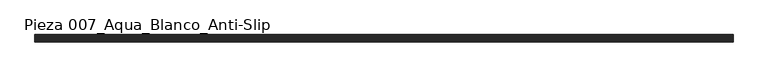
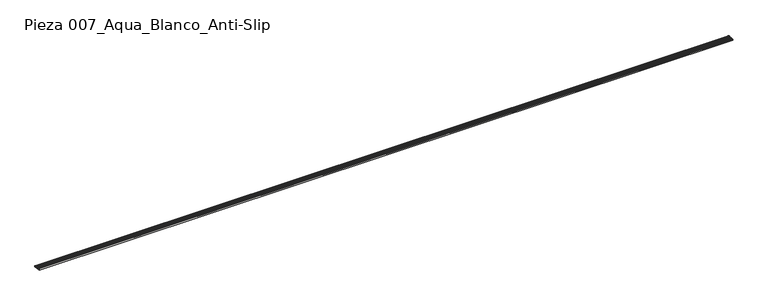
"""IFC4 building model written with IfcOpenShell, lengths in millimetres: slab geometry, ROSA GRES_007 : Pieza 007_Aqua_Blanco_Anti-Slip."""

from ifc_helpers import new_model, si_unit, point, frame, frame_2d, origin, place, context, project, spatial, polyline, circle_curve, trimmed, segment, composite_curve, outline, extrude, source, transform, mapped, element, save


def pieza_007_aqua_blanco_anti_slip_7cebcb04(model_context):
    return source(origin(), model_context, "Body", "SweptSolid", [
        extrude(outline(composite_curve([segment(trimmed(circle_curve(frame_2d((-25.9545763, 173.0767428)), 11.6464304), [point((-14.3742659, 174.3159971))], [point((-37.1820416, 176.172444))], True, "CARTESIAN"), True, "CONTINUOUS"), segment(polyline([(-37.1820416, 176.172444), (-33.8762309, 200.4746837), (-29.9345538, 200.1538709)]), True, "CONTINUOUS"), segment(trimmed(circle_curve(frame_2d((-27.3971937, 201.142641)), 2.7232081), [point((-29.9345538, 200.1538709))], [point((-24.7247274, 200.6193952))], True, "CARTESIAN"), True, "CONTINUOUS"), segment(trimmed(circle_curve(frame_2d((-20.3008643, 202.7650351)), 4.9167404), [point((-24.7247274, 200.6193952))], [point((-16.9364731, 199.1796191))], True, "CARTESIAN"), True, "CONTINUOUS"), segment(polyline([(-16.9364731, 199.1796191), (-12.7748841, 198.875801)]), True, "CONTINUOUS"), segment(trimmed(circle_curve(frame_2d((-15.1536138, 183.7870899)), 15.2750633), [point((-12.7748841, 198.875801))], [point((0.0710994, 182.547869))], False, "CARTESIAN"), True, "CONTINUOUS"), segment(polyline([(0.0710994, 182.547869), (-0.6896004, 173.202129), (-14.3742659, 174.3159971)]), True, "CONTINUOUS")], self_intersect=False)), frame((0.0, 0.0, 0.0), z_axis=(1.0, 0.0, 0.0), x_axis=(0.0, 1.0, 0.0)), (0.0, 0.0, 1.0), 11502.2095207),
        extrude(outline(composite_curve([segment(trimmed(circle_curve(frame_2d((-91.1625174, 167.3774726)), 22.5372595), [point((-71.8498608, 178.9942432))], [point((-108.342302, 181.9645582))], True, "CARTESIAN"), True, "CONTINUOUS"), segment(polyline([(-108.342302, 181.9645582), (-119.2900344, 182.8556525), (-117.4809059, 205.0820876), (-115.5338707, 204.9236084), (-115.3491545, 207.1930072), (-113.0660814, 207.0070959)]), True, "CONTINUOUS"), segment(trimmed(circle_curve(frame_2d((-109.1074243, 209.7932705)), 4.8408403), [point((-113.0660814, 207.0070959))], [point((-105.2742048, 206.836894))], True, "CARTESIAN"), True, "CONTINUOUS"), segment(trimmed(circle_curve(frame_2d((-100.9933064, 209.1504161)), 4.8660534), [point((-105.2742048, 206.836894))], [point((-97.1292049, 206.1928503))], True, "CARTESIAN"), True, "CONTINUOUS"), segment(trimmed(circle_curve(frame_2d((-92.9342908, 208.0451437)), 4.5856619), [point((-97.1292049, 206.1928503))], [point((-89.0833894, 205.555394))], True, "CARTESIAN"), True, "CONTINUOUS"), segment(trimmed(circle_curve(frame_2d((-84.8780848, 207.3839748)), 4.5856619), [point((-89.0833894, 205.555394))], [point((-81.0271834, 204.8942251))], True, "CARTESIAN"), True, "CONTINUOUS"), segment(trimmed(circle_curve(frame_2d((-76.8218788, 206.722806)), 4.5856619), [point((-81.0271834, 204.8942251))], [point((-73.3820924, 203.6902881))], True, "CARTESIAN"), True, "CONTINUOUS"), segment(polyline([(-73.3820924, 203.6902881), (-69.6579726, 203.3871621), (-69.3023399, 198.236672)]), True, "CONTINUOUS"), segment(trimmed(circle_curve(frame_2d((-57.0579989, 199.0821231)), 12.2734948), [point((-69.3023399, 198.236672))], [point((-61.867532, 187.7902205))], True, "CARTESIAN"), True, "CONTINUOUS"), segment(polyline([(-61.867532, 187.7902205), (-43.8250834, 186.3216491)]), True, "CONTINUOUS"), segment(trimmed(circle_curve(frame_2d((-43.5817022, 189.3117604)), 3.0), [point((-43.8250834, 186.3216491))], [point((-40.9402045, 187.8896178))], True, "CARTESIAN"), True, "CONTINUOUS"), segment(trimmed(circle_curve(frame_2d((-106.9597263, 233.2212806)), 80.084561), [point((-40.9402045, 187.8896178))], [point((-33.8762309, 200.4746837))], True, "CARTESIAN"), True, "CONTINUOUS"), segment(polyline([(-33.8762309, 200.4746837), (-37.1820416, 176.172444), (-71.8498608, 178.9942432)]), True, "CONTINUOUS")], self_intersect=False)), frame((0.0, 0.0, 0.0), z_axis=(1.0, 0.0, 0.0), x_axis=(0.0, 1.0, 0.0)), (0.0, 0.0, 1.0), 11502.2095207),
    ])


if __name__ == "__main__":
    model = new_model("IFC4")
    model_context = context("Model", 3, world=origin())
    ifc_project = project(units=[si_unit("LENGTHUNIT", "METRE", prefix="MILLI")], contexts=[model_context])
    site = spatial("IfcSite", under=ifc_project)
    building = spatial("IfcBuilding", under=site)
    placement = place(None, origin())
    pieza_007_aqua_blanco_anti_slip_shape = pieza_007_aqua_blanco_anti_slip_7cebcb04(model_context)
    element("IfcSlab", 1, ObjectType="ROSA GRES_007 : Pieza 007_Aqua_Blanco_Anti-Slip", at=placement, inside=building, context=model_context, shape_type="MappedRepresentation", body=[
        mapped(pieza_007_aqua_blanco_anti_slip_shape, transform((0.0, 0.0, 0.0), x_axis=(1.0, 0.0, 0.0), y_axis=(0.0, 1.0, 0.0), z_axis=(0.0, 0.0, 1.0))),
    ])
    save(model, "model.ifc")
